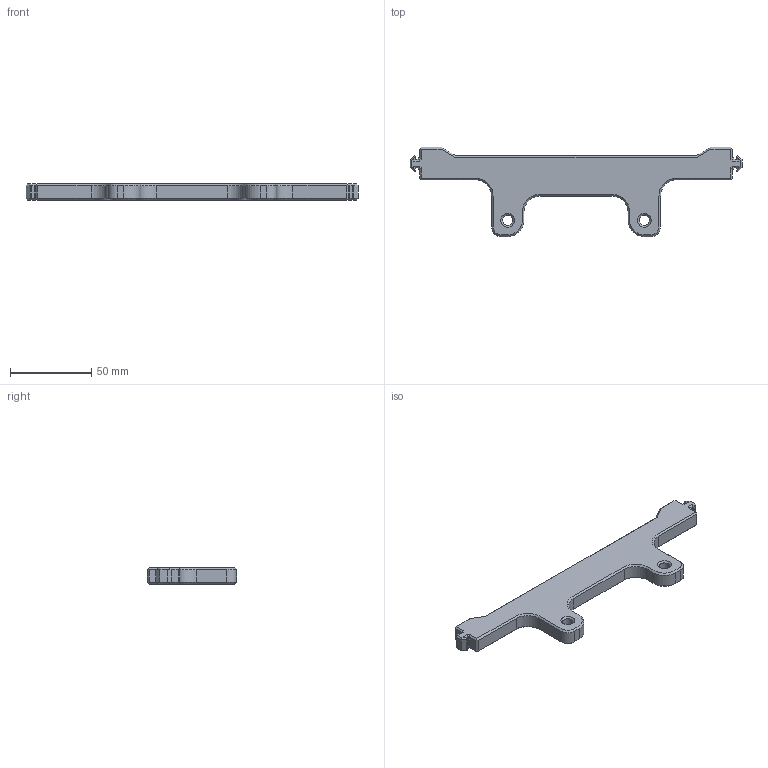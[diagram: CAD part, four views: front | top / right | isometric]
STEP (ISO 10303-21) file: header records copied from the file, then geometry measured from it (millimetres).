
FILE_DESCRIPTION(/* description */ ('STEP AP242 Edition 2','CAx-IF Rec.Pracs.---Representation and Presentation of Product Manufacturing Information (PMI)---4.0---2014-10-13','CAx-IF Rec.Pracs.---3D Tessellated Geometry---0.4---2014-09-14','2;1','CAx-IF Rec.Pracs.---User Defined Attributes---1.5---2016-08-15'),/* implementation_level */ '2;1');
FILE_NAME(/* name */ 'Tarok - Total Assemply - Relay Holder',/* time_stamp */ '2026-05-23T09:34:08Z',/* author */ (''),/* organization */ (''),/* preprocessor_version */ 'ST-DEVELOPER v20',/* originating_system */ 'ONSHAPE BY PTC INC, 1.215',/* authorisation */ ' ');
FILE_SCHEMA (('AP242_MANAGED_MODEL_BASED_3D_ENGINEERING_MIM_LF { 1 0 10303 442 3 1 4 }'));
Length unit declared in the file: metre
Products named in the file (1): Relay Holder
Bounding box: 204.8 x 55 x 10 mm (x, y, z)
Volume: 50914.4 mm3; surface area: 15524.8 mm2
Topology: 1 solids, 1 shells, 160 faces, 390 edges, 232 vertices
Faces by surface type: plane 124, cone 20, cylinder 10, bspline 6
Full cylindrical faces by diameter (mm): 6.45 x2
Entity records: 4622 total; most frequent: CARTESIAN_POINT 927, ORIENTED_EDGE 768, DIRECTION 718, EDGE_CURVE 384, LINE 328, VECTOR 328, VERTEX_POINT 232, AXIS2_PLACEMENT_3D 195
